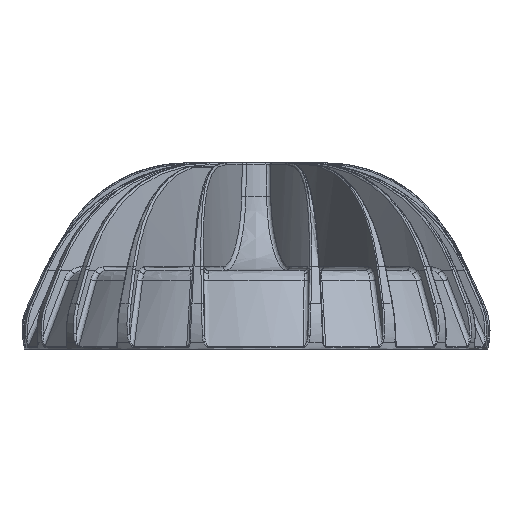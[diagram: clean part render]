
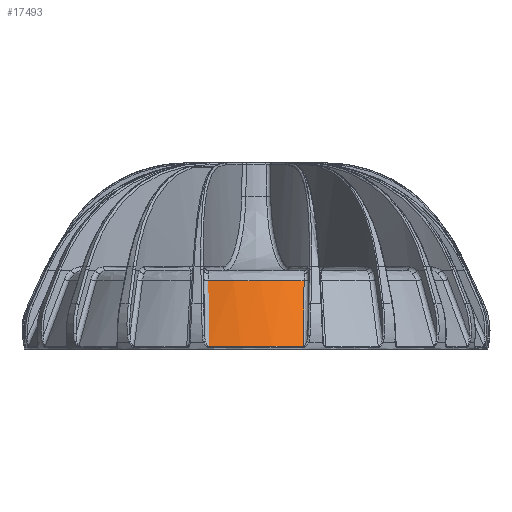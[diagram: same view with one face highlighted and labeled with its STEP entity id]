
A CAD part, left-side view. The second image highlights one B-rep face of the part: STEP entity #17493.
In plain terms, the highlighted free-form (B-spline) face has degree [3, 1] with [14, 2] control points.
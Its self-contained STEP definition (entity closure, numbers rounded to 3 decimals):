
#2359=B_SPLINE_SURFACE_WITH_KNOTS($,3,1,((#238988,#238989),(#238990,#238991),
(#238992,#238993),(#238994,#238995),(#238996,#238997),(#238998,#238999),
(#239000,#239001),(#239002,#239003),(#239004,#239005),(#239006,#239007),
(#239008,#239009),(#239010,#239011),(#239012,#239013),(#239014,#239015)),
.UNSPECIFIED.,.F.,.F.,.F.,(4,1,1,1,1,1,1,1,1,1,1,4),(2,2),(0.,1.988,
5.963,8.945,11.927,17.89,23.853,
29.817,32.798,35.78,39.755,41.743),
(0.,1.),.UNSPECIFIED.);
#7578=B_SPLINE_CURVE_WITH_KNOTS($,3,(#189140,#189141,#189142,#189143,#189144,
#189145,#189146,#189147,#189148,#189149,#189150),.UNSPECIFIED.,.F.,.F.,(4,
1,1,1,1,1,1,1,4),(-27.466,-27.238,-25.425,-21.792,
-14.525,-7.258,-3.625,-1.812,-1.584),
.UNSPECIFIED.);
#8718=B_SPLINE_CURVE_WITH_KNOTS($,3,(#197036,#197037,#197038,#197039,#197040,
#197041,#197042),.UNSPECIFIED.,.F.,.F.,(4,1,1,1,4),(0.,5.115,
10.229,15.344,20.459),.UNSPECIFIED.);
#8721=B_SPLINE_CURVE_WITH_KNOTS($,3,(#197053,#197054,#197055,#197056),.UNSPECIFIED.,
.F.,.F.,(4,4),(0.159,20.612),.UNSPECIFIED.);
#8722=B_SPLINE_CURVE_WITH_KNOTS($,3,(#197057,#197058,#197059,#197060,#197061,
#197062,#197063,#197064,#197065,#197066,#197067,#197068),.UNSPECIFIED.,.F.,
.F.,(4,1,1,1,1,1,1,1,1,4),(-37.931,-35.78,-32.798,
-29.817,-23.853,-17.89,-11.927,
-8.945,-5.963,-3.812),.UNSPECIFIED.);
#17493=ADVANCED_FACE($,(#21275),#2359,.T.);
#21275=FACE_OUTER_BOUND($,#25142,.T.);
#25142=EDGE_LOOP($,(#34948,#34949,#34950,#34951));
#34948=ORIENTED_EDGE($,*,*,#48614,.F.);
#34949=ORIENTED_EDGE($,*,*,#48618,.T.);
#34950=ORIENTED_EDGE($,*,*,#48617,.T.);
#34951=ORIENTED_EDGE($,*,*,#47424,.F.);
#47424=EDGE_CURVE($,#57285,#57286,#7578,.T.);
#48614=EDGE_CURVE($,#58103,#57285,#8718,.T.);
#48617=EDGE_CURVE($,#58105,#57286,#8721,.T.);
#48618=EDGE_CURVE($,#58103,#58105,#8722,.T.);
#57285=VERTEX_POINT($,#302297);
#57286=VERTEX_POINT($,#302298);
#58103=VERTEX_POINT($,#303115);
#58105=VERTEX_POINT($,#303117);
#189140=CARTESIAN_POINT($,(-119.081,13.368,-17.887));
#189141=CARTESIAN_POINT($,(-119.105,13.293,-17.887));
#189142=CARTESIAN_POINT($,(-119.32,12.614,-17.887));
#189143=CARTESIAN_POINT($,(-119.875,10.711,-17.887));
#189144=CARTESIAN_POINT($,(-120.846,6.368,-17.887));
#189145=CARTESIAN_POINT($,(-121.416,0.,-17.887));
#189146=CARTESIAN_POINT($,(-120.845,-6.368,-17.887));
#189147=CARTESIAN_POINT($,(-119.874,-10.711,-17.887));
#189148=CARTESIAN_POINT($,(-119.32,-12.614,-17.887));
#189149=CARTESIAN_POINT($,(-119.105,-13.293,-17.887));
#189150=CARTESIAN_POINT($,(-119.081,-13.368,-17.887));
#197036=CARTESIAN_POINT($,(-128.067,13.11,-36.251));
#197037=CARTESIAN_POINT($,(-127.321,13.144,-34.719));
#197038=CARTESIAN_POINT($,(-125.827,13.206,-31.657));
#197039=CARTESIAN_POINT($,(-123.582,13.281,-27.065));
#197040=CARTESIAN_POINT($,(-121.334,13.336,-22.475));
#197041=CARTESIAN_POINT($,(-119.833,13.36,-19.416));
#197042=CARTESIAN_POINT($,(-119.081,13.368,-17.887));
#197053=CARTESIAN_POINT($,(-128.067,-13.11,-36.251));
#197054=CARTESIAN_POINT($,(-124.738,-13.263,-29.423));
#197055=CARTESIAN_POINT($,(-121.762,-13.337,-23.343));
#197056=CARTESIAN_POINT($,(-119.081,-13.368,-17.887));
#197057=CARTESIAN_POINT($,(-128.067,13.11,-36.251));
#197058=CARTESIAN_POINT($,(-128.208,12.568,-36.251));
#197059=CARTESIAN_POINT($,(-128.523,11.271,-36.251));
#197060=CARTESIAN_POINT($,(-128.942,9.211,-36.251));
#197061=CARTESIAN_POINT($,(-129.423,6.156,-36.251));
#197062=CARTESIAN_POINT($,(-129.768,2.308,-36.251));
#197063=CARTESIAN_POINT($,(-129.768,-2.308,-36.251));
#197064=CARTESIAN_POINT($,(-129.423,-6.156,-36.251));
#197065=CARTESIAN_POINT($,(-128.942,-9.211,-36.251));
#197066=CARTESIAN_POINT($,(-128.523,-11.271,-36.251));
#197067=CARTESIAN_POINT($,(-128.208,-12.568,-36.251));
#197068=CARTESIAN_POINT($,(-128.067,-13.11,-36.251));
#238988=CARTESIAN_POINT($,(-119.081,-13.368,-17.886));
#238989=CARTESIAN_POINT($,(-127.238,-15.976,-36.251));
#238990=CARTESIAN_POINT($,(-119.214,-12.951,-17.886));
#238991=CARTESIAN_POINT($,(-127.396,-15.481,-36.251));
#238992=CARTESIAN_POINT($,(-119.595,-11.697,-17.886));
#238993=CARTESIAN_POINT($,(-127.849,-13.991,-36.251));
#238994=CARTESIAN_POINT($,(-120.083,-9.802,-17.886));
#238995=CARTESIAN_POINT($,(-128.429,-11.735,-36.251));
#238996=CARTESIAN_POINT($,(-120.511,-7.692,-17.886));
#238997=CARTESIAN_POINT($,(-128.942,-9.211,-36.251));
#238998=CARTESIAN_POINT($,(-120.913,-5.137,-17.886));
#238999=CARTESIAN_POINT($,(-129.423,-6.156,-36.251));
#239000=CARTESIAN_POINT($,(-121.202,-1.92,-17.886));
#239001=CARTESIAN_POINT($,(-129.769,-2.308,-36.251));
#239002=CARTESIAN_POINT($,(-121.202,1.921,-17.886));
#239003=CARTESIAN_POINT($,(-129.769,2.308,-36.251));
#239004=CARTESIAN_POINT($,(-120.914,5.137,-17.886));
#239005=CARTESIAN_POINT($,(-129.423,6.157,-36.251));
#239006=CARTESIAN_POINT($,(-120.511,7.692,-17.886));
#239007=CARTESIAN_POINT($,(-128.942,9.211,-36.251));
#239008=CARTESIAN_POINT($,(-120.083,9.802,-17.886));
#239009=CARTESIAN_POINT($,(-128.429,11.735,-36.251));
#239010=CARTESIAN_POINT($,(-119.596,11.697,-17.886));
#239011=CARTESIAN_POINT($,(-127.849,13.991,-36.251));
#239012=CARTESIAN_POINT($,(-119.214,12.951,-17.886));
#239013=CARTESIAN_POINT($,(-127.396,15.481,-36.251));
#239014=CARTESIAN_POINT($,(-119.081,13.368,-17.886));
#239015=CARTESIAN_POINT($,(-127.238,15.976,-36.251));
#302297=CARTESIAN_POINT($,(-119.081,13.368,-17.887));
#302298=CARTESIAN_POINT($,(-119.081,-13.368,-17.887));
#303115=CARTESIAN_POINT($,(-128.067,13.11,-36.251));
#303117=CARTESIAN_POINT($,(-128.067,-13.11,-36.251));
